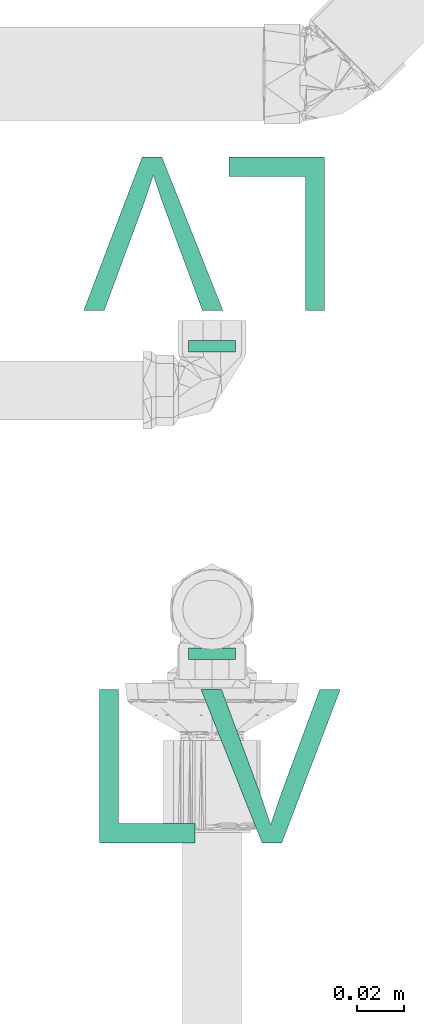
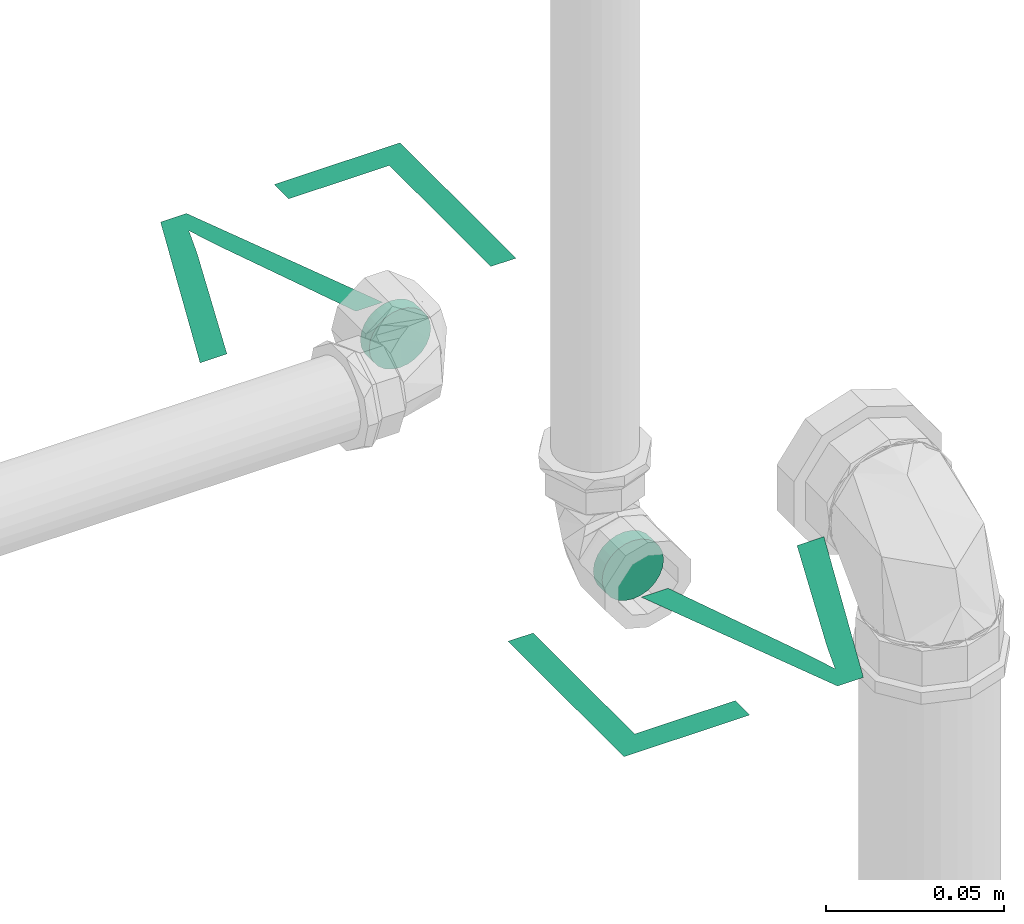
# One storey, part 254 of 589: 2 flow terminals.
"""IFC2X3 building model written with IfcOpenShell, lengths in millimetres."""

import ifcopenshell
import ifcopenshell.guid

model = None  # the IFC model being written
_history = None  # IfcOwnerHistory: only IFC2X3 demands one
_inside = {}  # id of a spatial element -> (the spatial element, [elements in it])
_under = {}  # id of a project, library or spatial element -> (it, [spatial elements below it])
_declared = {}  # id of a project -> (the project, [libraries it declares])
_typed = {}  # id of a type object -> (the type object, [elements of that type])
_made_of = {}  # id of a material, layer set ... -> (it, [elements and type objects made of it])


def new_model(schema):
    """Start an empty IFC model of exactly this schema.

    Asked for "IFC4X3", IfcOpenShell would pick the latest addendum, in which some entities
    have other attributes; the version numbers below select the first issue.
    IFC2X3 requires an IfcOwnerHistory on every rooted entity: one is made here for all.
    """
    global model, _history
    if schema == "IFC4X3":
        model = ifcopenshell.file(schema_version=(4, 3, 0, 0))
    else:
        model = ifcopenshell.file(schema=schema)
    _inside.clear()
    _under.clear()
    _declared.clear()
    _typed.clear()
    _made_of.clear()
    _history = None
    if model.schema == "IFC2X3":
        org = make("IfcOrganization", Name="unknown")
        user = make(
            "IfcPersonAndOrganization",
            ThePerson=make("IfcPerson", FamilyName="unknown"),
            TheOrganization=org,
        )
        app = make(
            "IfcApplication",
            ApplicationDeveloper=org,
            Version="unknown",
            ApplicationFullName="unknown",
            ApplicationIdentifier="unknown",
        )
        _history = make(
            "IfcOwnerHistory",
            OwningUser=user,
            OwningApplication=app,
            ChangeAction="ADDED",
            CreationDate=0,
        )
    return model


def make(cls, **values):
    """One entity of the class cls with the attributes given. An attribute that is None is left unset."""
    return model.create_entity(
        cls, **{name: value for name, value in values.items() if value is not None}
    )


def entity(cls, *values):
    """Any entity or typed value of the class cls, its attributes in the order of the schema. None: left unset."""
    e = model.create_entity(cls)
    for i, value in enumerate(values):
        if value is not None:
            e[i] = value
    return e


def rooted(cls, **values):
    """An entity with a GlobalId (a new one), such as an element, a storey or a relation."""
    return make(cls, GlobalId=ifcopenshell.guid.new(), OwnerHistory=_history, **values)


def si_unit(unit_type, name, prefix=None):
    """IfcSIUnit, for example si_unit("LENGTHUNIT", "METRE", prefix="MILLI")."""
    return make("IfcSIUnit", UnitType=unit_type, Prefix=prefix, Name=name)


def converted_unit(unit_type, name, factor, base, dimensions=None, offset=None):
    """IfcConversionBasedUnit, such as the inch: factor (a typed value) times the base unit."""
    return make(
        "IfcConversionBasedUnit"
        if offset is None
        else "IfcConversionBasedUnitWithOffset",
        ConversionOffset=offset,
        Dimensions=None
        if dimensions is None
        else entity("IfcDimensionalExponents", *dimensions),
        UnitType=unit_type,
        Name=name,
        ConversionFactor=make(
            "IfcMeasureWithUnit", ValueComponent=factor, UnitComponent=base
        ),
    )


def derived_unit(unit_type, elements):
    """IfcDerivedUnit: a product of units, each with its exponent."""
    return make(
        "IfcDerivedUnit",
        Elements=[
            make("IfcDerivedUnitElement", Unit=unit, Exponent=power)
            for unit, power in elements
        ],
        UnitType=unit_type,
    )


def assignment(units):
    """IfcUnitAssignment: the units of a project."""
    return None if units is None else make("IfcUnitAssignment", Units=units)


def point(xyz):
    """IfcCartesianPoint."""
    return None if xyz is None else make("IfcCartesianPoint", Coordinates=xyz)


def direction(xyz):
    """IfcDirection."""
    return None if xyz is None else make("IfcDirection", DirectionRatios=xyz)


def frame(location, z_axis=None, x_axis=None):
    """IfcAxis2Placement3D, a coordinate frame: its origin and axes. An axis left out is left unset."""
    return make(
        "IfcAxis2Placement3D",
        Location=point(location),
        Axis=direction(z_axis),
        RefDirection=direction(x_axis),
    )


def origin():
    """The frame at (0, 0, 0) with its axes left unset."""
    return frame((0.0, 0.0, 0.0))


def place(relative_to, where):
    """IfcLocalPlacement: puts the frame where relative to a parent placement (None: the world)."""
    return make(
        "IfcLocalPlacement", PlacementRelTo=relative_to, RelativePlacement=where
    )


def context(
    kind, dimensions, precision=None, world=None, true_north=None, identifier=None
):
    """IfcGeometricRepresentationContext, for example the 3D "Model" context."""
    return make(
        "IfcGeometricRepresentationContext",
        ContextIdentifier=identifier,
        ContextType=kind,
        CoordinateSpaceDimension=dimensions,
        Precision=precision,
        WorldCoordinateSystem=world,
        TrueNorth=true_north,
    )


def subcontext(parent, identifier, kind, view, scale=None):
    """IfcGeometricRepresentationSubContext, for example "Body" below "Model"."""
    return make(
        "IfcGeometricRepresentationSubContext",
        ContextIdentifier=identifier,
        ContextType=kind,
        ParentContext=parent,
        TargetScale=scale,
        TargetView=view,
    )


def project(units=None, contexts=None):
    """IfcProject with its units and contexts."""
    return rooted(
        "IfcProject",
        Name="project",
        RepresentationContexts=contexts,
        UnitsInContext=assignment(units),
    )


def spatial(cls, under=None, at=None, **own):
    """A site, building, storey or space (cls), placed at a placement, below another one or the project."""
    s = rooted(cls, ObjectPlacement=at, **own)
    if under is not None:
        _under.setdefault(under.id(), (under, []))[1].append(s)
    return s


def faces_of(points, faces, orient=None, outer=None):
    """IfcFace entities. A face is a list of loops; a loop is a list of indices into points, from 0.

    orient and outer hold one flag for each loop. By default every Orientation is true, the
    first loop of a face is its IfcFaceOuterBound and the others are IfcFaceBound.
    """
    made = []
    for i, loops in enumerate(faces):
        bounds = []
        for j, loop in enumerate(loops):
            is_outer = j == 0 if outer is None else outer[i][j]
            bounds.append(
                make(
                    "IfcFaceOuterBound" if is_outer else "IfcFaceBound",
                    Bound=make("IfcPolyLoop", Polygon=[points[k] for k in loop]),
                    Orientation=True if orient is None else orient[i][j],
                )
            )
        made.append(make("IfcFace", Bounds=bounds))
    return made


def face_set(faces, orient=None, outer=None):
    """The faces of one IfcConnectedFaceSet. surface_model builds it on its shared points."""
    return ("IfcConnectedFaceSet", faces, orient, outer)


def surface_model(cls, points, shells):
    """IfcFaceBasedSurfaceModel or IfcShellBasedSurfaceModel (cls): surfaces that need not close."""
    shared = [point(p) for p in points]
    made = [make(c, CfsFaces=faces_of(shared, fs, o, b)) for c, fs, o, b in shells]
    if cls == "IfcFaceBasedSurfaceModel":
        return make(cls, FbsmFaces=made)
    return make(cls, SbsmBoundary=made)


def shape(context_of_items, identifier, shape_type, items):
    """IfcShapeRepresentation: the items that make up one representation, for example the "Body"."""
    return make(
        "IfcShapeRepresentation",
        ContextOfItems=context_of_items,
        RepresentationIdentifier=identifier,
        RepresentationType=shape_type,
        Items=items,
    )


def source(mapping_origin, context_of_items, identifier, shape_type, items):
    """IfcRepresentationMap: a shape defined once, which mapped items show again and again."""
    return make(
        "IfcRepresentationMap",
        MappingOrigin=mapping_origin,
        MappedRepresentation=shape(context_of_items, identifier, shape_type, items),
    )


def transform(
    local_origin,
    x_axis=None,
    y_axis=None,
    z_axis=None,
    scale=None,
    scale2=None,
    scale3=None,
    uniform=True,
):
    """IfcCartesianTransformationOperator3D, or its non-uniform kind. x_axis, y_axis, z_axis: its Axis1, 2, 3."""
    if uniform:
        return make(
            "IfcCartesianTransformationOperator3D",
            Axis1=direction(x_axis),
            Axis2=direction(y_axis),
            LocalOrigin=point(local_origin),
            Scale=scale,
            Axis3=direction(z_axis),
        )
    return make(
        "IfcCartesianTransformationOperator3DnonUniform",
        Axis1=direction(x_axis),
        Axis2=direction(y_axis),
        LocalOrigin=point(local_origin),
        Scale=scale,
        Axis3=direction(z_axis),
        Scale2=scale2,
        Scale3=scale3,
    )


def mapped(mapping_source, mapping_target):
    """IfcMappedItem: shows the shape of a source again, moved by a transform."""
    return make(
        "IfcMappedItem", MappingSource=mapping_source, MappingTarget=mapping_target
    )


def material(Name=None, Category=None):
    """IfcMaterial."""
    return make("IfcMaterial", Name=Name, Category=Category)


def made_of(thing, what):
    """Note that an element or type object is made of a material, layer set ...; save() writes the relation."""
    if what is not None:
        _made_of.setdefault(what.id(), (what, []))[1].append(thing)
    return thing


def type_object(cls, material=None, **own):
    """A type object (cls), such as IfcWallType, which elements share."""
    return made_of(rooted(cls, **own), material)


def type_shapes(of_type, sources):
    """Give a type object the sources (RepresentationMaps) that its elements show as mapped items."""
    of_type.RepresentationMaps = sources


def element(
    cls,
    number,
    at=None,
    inside=None,
    cuts=None,
    type_object=None,
    material=None,
    context=None,
    identifier="Body",
    shape_type=None,
    held_by="IfcProductDefinitionShape",
    body=None,
    shapes=None,
    **own,
):
    """One element of the class cls, such as IfcWall. Its Tag is "e" and its number.

    at: its placement. inside: the storey or other place that contains it. cuts: it is an
    opening in that element (IfcRelVoidsElement). A single representation is given by context,
    identifier, shape_type and body (its items); several are given by shapes. held_by: the class
    of the entity that holds the representations. save() writes the other relations.
    """
    e = rooted(cls, Tag="e%d" % number, ObjectPlacement=at, **own)
    if body is not None:
        shapes = [shape(context, identifier, shape_type, body)]
    if shapes is not None:
        e.Representation = make(held_by, Representations=shapes)
    if inside is not None:
        _inside.setdefault(inside.id(), (inside, []))[1].append(e)
    if cuts is not None:
        rooted(
            "IfcRelVoidsElement", RelatingBuildingElement=cuts, RelatedOpeningElement=e
        )
    if type_object is not None:
        _typed.setdefault(type_object.id(), (type_object, []))[1].append(e)
    return made_of(e, material)


def aggregate(whole, parts):
    """IfcRelAggregates: a whole, such as a stair, and the parts it consists of."""
    return rooted("IfcRelAggregates", RelatingObject=whole, RelatedObjects=parts)


def save(model, path):
    """Write the relations noted so far, then the file.

    IfcRelAggregates (storeys below a building ...), IfcRelContainedInSpatialStructure (elements
    in a storey), IfcRelDefinesByType, IfcRelAssociatesMaterial and IfcRelDeclares: one each for
    every whole, place, type object, material and project.
    """
    for whole, parts in _under.values():
        aggregate(whole, parts)
    for where, things in _inside.values():
        rooted(
            "IfcRelContainedInSpatialStructure",
            RelatedElements=things,
            RelatingStructure=where,
        )
    for kind, things in _typed.values():
        rooted("IfcRelDefinesByType", RelatedObjects=things, RelatingType=kind)
    for what, things in _made_of.values():
        rooted("IfcRelAssociatesMaterial", RelatedObjects=things, RelatingMaterial=what)
    for by, libraries in _declared.values():
        rooted("IfcRelDeclares", RelatingContext=by, RelatedDefinitions=libraries)
    model.write(path)


model = new_model("IFC2X3")

# Units and contexts
model_context = context("Model", 3, precision=0.01, world=origin(), true_north=direction((6.123031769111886e-17, 1.0)))
body_context = subcontext(model_context, "Body", "Model", "MODEL_VIEW")
ifc_project = project(units=[si_unit("LENGTHUNIT", "METRE", prefix="MILLI"), si_unit("AREAUNIT", "SQUARE_METRE"), si_unit("VOLUMEUNIT", "CUBIC_METRE"), converted_unit("PLANEANGLEUNIT", "DEGREE", entity("IfcRatioMeasure", 0.017453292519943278), si_unit("PLANEANGLEUNIT", "RADIAN"), dimensions=[0, 0, 0, 0, 0, 0, 0]), si_unit("MASSUNIT", "GRAM", prefix="KILO"), derived_unit("MASSDENSITYUNIT", [(si_unit("MASSUNIT", "GRAM", prefix="KILO"), 1), (si_unit("LENGTHUNIT", "METRE"), -3)]), derived_unit("IONCONCENTRATIONUNIT", [(si_unit("MASSUNIT", "GRAM", prefix="KILO"), 1), (si_unit("LENGTHUNIT", "METRE"), -3)]), derived_unit("MOMENTOFINERTIAUNIT", [(si_unit("LENGTHUNIT", "METRE"), 4)]), si_unit("TIMEUNIT", "SECOND"), si_unit("FREQUENCYUNIT", "HERTZ"), si_unit("THERMODYNAMICTEMPERATUREUNIT", "DEGREE_CELSIUS"), derived_unit("THERMALTRANSMITTANCEUNIT", [(si_unit("MASSUNIT", "GRAM", prefix="KILO"), 1), (si_unit("THERMODYNAMICTEMPERATUREUNIT", "KELVIN"), -1), (si_unit("TIMEUNIT", "SECOND"), -3)]), derived_unit("THERMALCONDUCTANCEUNIT", [(si_unit("MASSUNIT", "GRAM", prefix="KILO"), 1), (si_unit("THERMODYNAMICTEMPERATUREUNIT", "KELVIN"), -1), (si_unit("TIMEUNIT", "SECOND"), -3), (si_unit("LENGTHUNIT", "METRE"), 1)]), derived_unit("VOLUMETRICFLOWRATEUNIT", [(si_unit("LENGTHUNIT", "METRE"), 3), (si_unit("TIMEUNIT", "SECOND"), -1)]), derived_unit("MASSFLOWRATEUNIT", [(si_unit("MASSUNIT", "GRAM", prefix="KILO"), 1), (si_unit("TIMEUNIT", "SECOND"), -1)]), derived_unit("ROTATIONALFREQUENCYUNIT", [(si_unit("TIMEUNIT", "SECOND"), -1)]), si_unit("ELECTRICCURRENTUNIT", "AMPERE"), si_unit("ELECTRICVOLTAGEUNIT", "VOLT"), si_unit("POWERUNIT", "WATT"), si_unit("FORCEUNIT", "NEWTON", prefix="KILO"), si_unit("ILLUMINANCEUNIT", "LUX"), si_unit("LUMINOUSFLUXUNIT", "LUMEN"), si_unit("LUMINOUSINTENSITYUNIT", "CANDELA"), derived_unit("USERDEFINED", [(si_unit("MASSUNIT", "GRAM", prefix="KILO"), -1), (si_unit("LENGTHUNIT", "METRE"), -2), (si_unit("TIMEUNIT", "SECOND"), 3), (si_unit("LUMINOUSFLUXUNIT", "LUMEN"), 1)]), derived_unit("USERDEFINED", [(si_unit("MASSUNIT", "GRAM", prefix="KILO"), 1), (si_unit("TIMEUNIT", "SECOND"), -3), (si_unit("LENGTHUNIT", "METRE"), 3), (si_unit("ELECTRICCURRENTUNIT", "AMPERE"), -2)]), derived_unit("SOUNDPOWERUNIT", [(si_unit("MASSUNIT", "GRAM", prefix="KILO"), 1), (si_unit("TIMEUNIT", "SECOND"), -3), (si_unit("LENGTHUNIT", "METRE"), 2)]), derived_unit("SOUNDPRESSUREUNIT", [(si_unit("MASSUNIT", "GRAM", prefix="KILO"), 1), (si_unit("LENGTHUNIT", "METRE"), -1), (si_unit("TIMEUNIT", "SECOND"), -2)]), derived_unit("LINEARVELOCITYUNIT", [(si_unit("LENGTHUNIT", "METRE"), 1), (si_unit("TIMEUNIT", "SECOND"), -1)]), si_unit("PRESSUREUNIT", "PASCAL"), derived_unit("USERDEFINED", [(si_unit("MASSUNIT", "GRAM", prefix="KILO"), 1), (si_unit("LENGTHUNIT", "METRE"), -2), (si_unit("TIMEUNIT", "SECOND"), -2)]), derived_unit("LINEARFORCEUNIT", [(si_unit("MASSUNIT", "GRAM", prefix="KILO"), 1), (si_unit("TIMEUNIT", "SECOND"), -2)]), derived_unit("PLANARFORCEUNIT", [(si_unit("MASSUNIT", "GRAM", prefix="KILO"), 1), (si_unit("LENGTHUNIT", "METRE"), -1), (si_unit("TIMEUNIT", "SECOND"), -2)]), derived_unit("SPECIFICHEATCAPACITYUNIT", [(si_unit("THERMODYNAMICTEMPERATUREUNIT", "KELVIN"), -1), (si_unit("LENGTHUNIT", "METRE"), 2), (si_unit("TIMEUNIT", "SECOND"), -2)]), derived_unit("HEATINGVALUEUNIT", [(si_unit("LENGTHUNIT", "METRE"), 2), (si_unit("TIMEUNIT", "SECOND"), -2)]), derived_unit("VAPORPERMEABILITYUNIT", [(si_unit("LENGTHUNIT", "METRE"), -1), (si_unit("TIMEUNIT", "SECOND"), 1)]), derived_unit("DYNAMICVISCOSITYUNIT", [(si_unit("MASSUNIT", "GRAM", prefix="KILO"), 1), (si_unit("TIMEUNIT", "SECOND"), -1), (si_unit("LENGTHUNIT", "METRE"), -1)]), derived_unit("THERMALEXPANSIONCOEFFICIENTUNIT", [(si_unit("THERMODYNAMICTEMPERATUREUNIT", "KELVIN"), -1)]), derived_unit("MODULUSOFELASTICITYUNIT", [(si_unit("MASSUNIT", "GRAM", prefix="KILO"), 1), (si_unit("LENGTHUNIT", "METRE"), -1), (si_unit("TIMEUNIT", "SECOND"), -2)]), derived_unit("ISOTHERMALMOISTURECAPACITYUNIT", [(si_unit("LENGTHUNIT", "METRE"), 3), (si_unit("MASSUNIT", "GRAM", prefix="KILO"), -1)]), derived_unit("MOISTUREDIFFUSIVITYUNIT", [(si_unit("TIMEUNIT", "SECOND"), -1), (si_unit("LENGTHUNIT", "METRE"), 2)])], contexts=[model_context])

# Site, building, storey
site_placement = place(None, origin())
site = spatial("IfcSite", under=ifc_project, at=site_placement, Name="Default", CompositionType="ELEMENT")
building_placement = place(site_placement, origin())
building = spatial("IfcBuilding", under=site, at=building_placement, CompositionType="ELEMENT")
storey_placement = place(building_placement, frame((0.0, 0.0, 100.0)))
storey = spatial("IfcBuildingStorey", under=building, at=storey_placement, Name="TÉRREO", CompositionType="ELEMENT", Elevation=100.0)

# Flow terminals
ifc_material = material(Name="<Unnamed>")
distribution_element_type = type_object("IfcDistributionElementType", Name="Hidráulica_Ponto de Utilização_Uso Provável_Rodrigo MEP:Lavatório LV (Peso 0,3) 60cm do Piso", material=ifc_material)
shared_shape = source(origin(), body_context, "Body", "SurfaceModel", [
    surface_model("IfcFaceBasedSurfaceModel", [(0.0, 0.0, 11.595272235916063), (40.81037599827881, 0.0, 11.595272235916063), (40.81037599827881, 8.162075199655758, 11.595272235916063), (8.162075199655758, 8.162075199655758, 11.595272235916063), (8.162075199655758, 65.2966015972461, 11.595272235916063), (0.0, 65.2966015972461, 11.595272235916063), (69.281989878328, 0.0, 11.595272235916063), (77.71507148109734, 0.0, 11.595272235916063), (102.59983590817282, 65.2966015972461, 11.595272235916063), (93.86386479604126, 65.2966015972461, 11.595272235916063), (76.4238056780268, 18.253078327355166, 11.595272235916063), (72.94854709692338, 7.651945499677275, 11.595272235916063), (69.42546385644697, 18.253078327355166, 11.595272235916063), (52.03322939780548, 65.2966015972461, 11.595272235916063), (43.29725828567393, 65.2966015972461, 11.595272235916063), (37.95219179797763, 78.06704158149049, 11.595272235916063), (38.292933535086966, 78.06704158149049, 14.18346268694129), (39.291937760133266, 78.06704158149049, 16.595272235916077), (40.88112398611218, 78.06704158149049, 18.666340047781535), (42.95219179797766, 78.06704158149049, 20.255526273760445), (45.36400134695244, 78.06704158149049, 21.254530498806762), (47.952191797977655, 78.06704158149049, 21.59527223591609), (50.54038224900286, 78.06704158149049, 21.254530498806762), (52.95219179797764, 78.06704158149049, 20.255526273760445), (55.023259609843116, 78.06704158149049, 18.666340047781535), (56.61244583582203, 78.06704158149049, 16.595272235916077), (57.61145006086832, 78.06704158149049, 14.18346268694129), (57.95219179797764, 78.06704158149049, 11.595272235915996), (57.6114500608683, 78.06704158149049, 9.007081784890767), (56.612445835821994, 78.06704158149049, 6.595272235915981), (55.02325960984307, 78.06704158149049, 4.524204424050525), (52.95219179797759, 78.06704158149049, 2.9350181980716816), (50.540382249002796, 78.06704158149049, 1.936013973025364), (47.95219179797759, 78.06704158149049, 1.5952722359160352), (45.36400134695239, 78.06704158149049, 1.936013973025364), (42.952191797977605, 78.06704158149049, 2.9350181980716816), (40.88112398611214, 78.06704158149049, 4.524204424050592), (39.29193776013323, 78.06704158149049, 6.595272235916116), (38.292933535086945, 78.06704158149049, 9.007081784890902), (37.95219179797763, 83.06704158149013, 11.595272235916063), (38.292933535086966, 83.06704158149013, 14.18346268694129), (39.291937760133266, 83.06704158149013, 16.595272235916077), (40.88112398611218, 83.06704158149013, 18.666340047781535), (42.95219179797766, 83.06704158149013, 20.255526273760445), (45.36400134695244, 83.06704158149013, 21.254530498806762), (47.952191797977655, 83.06704158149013, 21.59527223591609), (50.54038224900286, 83.06704158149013, 21.254530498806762), (52.95219179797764, 83.06704158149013, 20.255526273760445), (55.023259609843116, 83.06704158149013, 18.666340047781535), (56.61244583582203, 83.06704158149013, 16.595272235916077), (57.61145006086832, 83.06704158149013, 14.18346268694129), (57.95219179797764, 83.06704158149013, 11.595272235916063), (57.6114500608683, 83.06704158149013, 9.007081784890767), (56.612445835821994, 83.06704158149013, 6.595272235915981), (55.02325960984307, 83.06704158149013, 4.524204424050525), (52.95219179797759, 83.06704158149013, 2.9350181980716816), (50.540382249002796, 83.06704158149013, 1.936013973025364), (47.95219179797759, 83.06704158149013, 1.5952722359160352), (45.36400134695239, 83.06704158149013, 1.936013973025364), (42.952191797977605, 83.06704158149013, 2.9350181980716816), (40.88112398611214, 83.06704158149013, 4.524204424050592), (39.29193776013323, 83.06704158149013, 6.595272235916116), (38.292933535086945, 83.06704158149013, 9.007081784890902)], [face_set([[[0, 1, 2, 3, 4, 5]], [[6, 7, 8, 9, 10, 11, 12, 13, 14]]]), face_set([[[15, 16, 17, 18, 19, 20, 21, 22, 23, 24, 25, 26, 27, 28, 29, 30, 31, 32, 33, 34, 35, 36, 37, 38]], [[39, 40, 41, 42, 43, 44, 45, 46, 47, 48, 49, 50, 51, 52, 53, 54, 55, 56, 57, 58, 59, 60, 61, 62]], [[39, 62, 38, 15]], [[62, 61, 37, 38]], [[60, 59, 35, 36]], [[61, 60, 36, 37]], [[59, 58, 34, 35]], [[33, 34, 58, 57]], [[57, 56, 32, 33]], [[56, 55, 31, 32]], [[54, 53, 29, 30]], [[55, 54, 30, 31]], [[53, 52, 28, 29]], [[27, 28, 52, 51]], [[51, 50, 26, 27]], [[50, 49, 25, 26]], [[48, 47, 23, 24]], [[49, 48, 24, 25]], [[47, 46, 22, 23]], [[21, 22, 46, 45]], [[45, 44, 20, 21]], [[44, 43, 19, 20]], [[42, 41, 17, 18]], [[43, 42, 18, 19]], [[41, 40, 16, 17]], [[15, 16, 40, 39]]])]),
])
type_shapes(distribution_element_type, [shared_shape])
flow_terminal_1_placement = place(storey_placement, frame((2507.4366899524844, 3218.5818041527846, 588.4056629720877), z_axis=(0.0, 0.0, 1.0), x_axis=(-1.0, 0.0, 0.0)))
element("IfcFlowTerminal", 1, at=flow_terminal_1_placement, inside=storey, type_object=distribution_element_type, material=ifc_material, Name="Hidráulica_Ponto de Utilização_Uso Provável_Rodrigo MEP:Lavatório LV (Peso 0,3) 60cm do Piso", ObjectType="Hidráulica_Ponto de Utilização_Uso Provável_Rodrigo MEP:Lavatório LV (Peso 0,3) 60cm do Piso", context=body_context, shape_type="MappedRepresentation", body=[
    mapped(shared_shape, transform((0.0, 0.0, 0.0), scale=1.0)),
])
flow_terminal_2_placement = place(storey_placement, frame((2411.5323063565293, 2926.503276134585, 588.4047277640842)))
element("IfcFlowTerminal", 2, at=flow_terminal_2_placement, inside=storey, type_object=distribution_element_type, material=ifc_material, Name="Hidráulica_Ponto de Utilização_Uso Provável_Rodrigo MEP:Lavatório LV (Peso 0,3) 60cm do Piso", ObjectType="Hidráulica_Ponto de Utilização_Uso Provável_Rodrigo MEP:Lavatório LV (Peso 0,3) 60cm do Piso", context=body_context, shape_type="MappedRepresentation", body=[
    mapped(shared_shape, transform((0.0, 0.0, 0.0), scale=1.0)),
])

save(model, "model.ifc")
